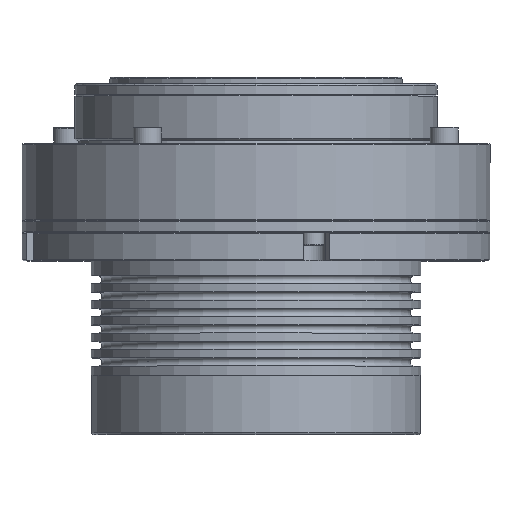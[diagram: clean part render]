
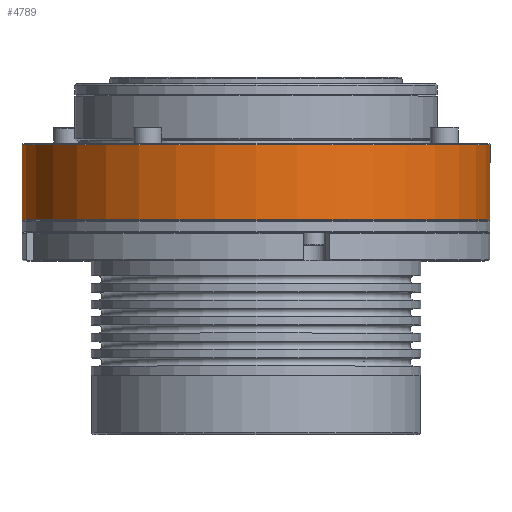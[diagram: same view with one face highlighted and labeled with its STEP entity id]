
A CAD part, top view. The second image highlights one B-rep face of the part: STEP entity #4789.
In plain terms, the highlighted cylindrical face has radius 71 mm (diameter 142 mm), a full revolution.
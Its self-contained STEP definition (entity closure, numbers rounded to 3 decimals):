
#206 = CARTESIAN_POINT ( 'NONE',  ( 0., 23.4, 0. ) ) ;
#1506 = CARTESIAN_POINT ( 'NONE',  ( 0., 23.1, -71. ) ) ;
#1680 = FACE_OUTER_BOUND ( 'NONE', #12830, .T. ) ;
#2795 = CARTESIAN_POINT ( 'NONE',  ( 0., 0.3, 0. ) ) ;
#3585 = VERTEX_POINT ( 'NONE', #1506 ) ;
#3635 = DIRECTION ( 'NONE',  ( 0., 0., -1. ) ) ;
#4329 = CARTESIAN_POINT ( 'NONE',  ( 0., 0.3, -71. ) ) ;
#4499 = EDGE_CURVE ( 'NONE', #6671, #6671, #10409, .T. ) ;
#4575 = CIRCLE ( 'NONE', #13567, 71. ) ;
#4789 = ADVANCED_FACE ( 'NONE', ( #1680, #22243 ), #5480, .T. ) ;
#5356 = EDGE_LOOP ( 'NONE', ( #6132 ) ) ;
#5480 = CYLINDRICAL_SURFACE ( 'NONE', #17878, 71. ) ;
#6132 = ORIENTED_EDGE ( 'NONE', *, *, #4499, .T. ) ;
#6671 = VERTEX_POINT ( 'NONE', #4329 ) ;
#8236 = ORIENTED_EDGE ( 'NONE', *, *, #15012, .F. ) ;
#8446 = DIRECTION ( 'NONE',  ( 0., 0., -1. ) ) ;
#9637 = AXIS2_PLACEMENT_3D ( 'NONE', #2795, #10266, #8446 ) ;
#10266 = DIRECTION ( 'NONE',  ( 0., 1., 0. ) ) ;
#10409 = CIRCLE ( 'NONE', #9637, 71. ) ;
#11227 = DIRECTION ( 'NONE',  ( 0., -1., 0. ) ) ;
#12830 = EDGE_LOOP ( 'NONE', ( #8236 ) ) ;
#13567 = AXIS2_PLACEMENT_3D ( 'NONE', #14043, #20029, #21748 ) ;
#14043 = CARTESIAN_POINT ( 'NONE',  ( 0., 23.1, 0. ) ) ;
#15012 = EDGE_CURVE ( 'NONE', #3585, #3585, #4575, .T. ) ;
#17878 = AXIS2_PLACEMENT_3D ( 'NONE', #206, #11227, #3635 ) ;
#20029 = DIRECTION ( 'NONE',  ( 0., 1., 0. ) ) ;
#21748 = DIRECTION ( 'NONE',  ( 0., 0., -1. ) ) ;
#22243 = FACE_OUTER_BOUND ( 'NONE', #5356, .T. ) ;
